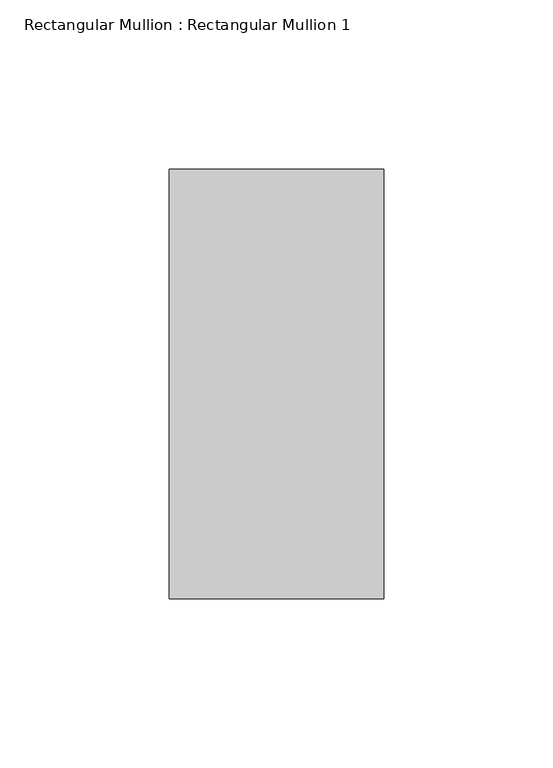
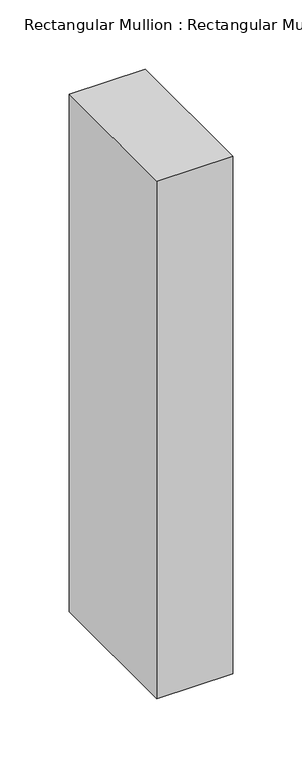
"""IFC4 building model written with IfcOpenShell, lengths in millimetres: member geometry, Rectangular Mullion : Rectangular Mullion 1."""

from ifc_helpers import new_model, si_unit, frame, origin, place, context, project, spatial, polyline, outline, extrude, source, transform, mapped, element, save


def rectangular_mullion_rectangular_mullion_1_c1bf3533(model_context):
    return source(origin(), model_context, "Body", "SweptSolid", [
        extrude(outline(polyline([(0.0, 63.5), (0.0, -63.5), (-63.5, -63.5), (-63.5, 63.5), (0.0, 63.5)])), frame((0.0, 0.0, -457.1999997), z_axis=(0.0, 0.0, 1.0), x_axis=(1.0, 0.0, 0.0)), (0.0, 0.0, 1.0), 457.1999997),
    ])


if __name__ == "__main__":
    model = new_model("IFC4")
    model_context = context("Model", 3, world=origin())
    ifc_project = project(units=[si_unit("LENGTHUNIT", "METRE", prefix="MILLI")], contexts=[model_context])
    site = spatial("IfcSite", under=ifc_project)
    building = spatial("IfcBuilding", under=site)
    placement = place(None, origin())
    rectangular_mullion_rectangular_mullion_1_shape = rectangular_mullion_rectangular_mullion_1_c1bf3533(model_context)
    element("IfcMember", 1, ObjectType="Rectangular Mullion : Rectangular Mullion 1", at=placement, inside=building, context=model_context, shape_type="MappedRepresentation", body=[
        mapped(rectangular_mullion_rectangular_mullion_1_shape, transform((0.0, 0.0, 0.0), x_axis=(1.0, 0.0, 0.0), y_axis=(0.0, 1.0, 0.0), z_axis=(0.0, 0.0, 1.0))),
    ])
    save(model, "model.ifc")
